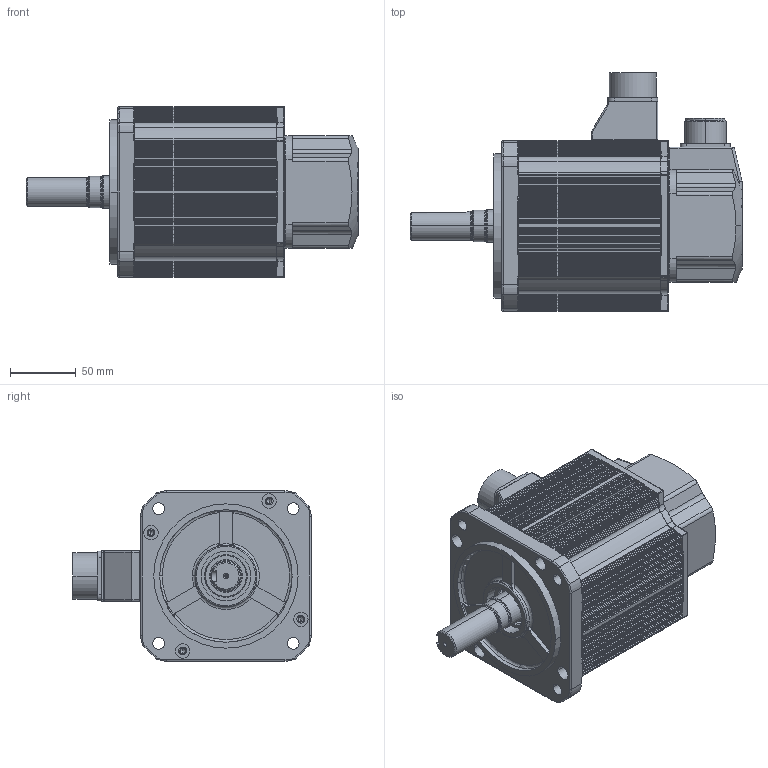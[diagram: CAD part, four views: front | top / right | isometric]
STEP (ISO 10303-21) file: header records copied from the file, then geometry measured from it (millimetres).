
FILE_DESCRIPTION (( 'STEP AP203' ), '1' );
FILE_NAME ('KANH-05B(BR).STEP', '2026-09-12T02:53:26', ( '' ), ( '' ), 'SwSTEP 2.0', 'SolidWorks 2023', '' );
FILE_SCHEMA (( 'CONFIG_CONTROL_DESIGN' ));
Length unit declared in the file: millimetre
Products named in the file (11): MS3102A 20-29P; 10050511 RUBBER SEAL_MS20; 1005052200 ENCODER COVER; KANH-05B(BR); □130 FLANGE; 10050523 GASKET_돌출형; Ø22-KEY8X41; 10050579 CONNECTOR BOX_MS20; MS3102A 20_표준; □130 BRACKET_BR; □130-111.0mm(0.5kW,BR,MS20)
Assembly tree (10 placements, depth 2):
  KANH-05B(BR)
    Ø22-KEY8X41
    □130 FLANGE
    □130-111.0mm(0.5kW,BR,MS20)
    □130 BRACKET_BR
    10050511 RUBBER SEAL_MS20
    10050579 CONNECTOR BOX_MS20
    MS3102A 20_표준
    MS3102A 20-29P
    1005052200 ENCODER COVER
    10050523 GASKET_돌출형
Bounding box: 253.2 x 181.75 x 130 mm (x, y, z)
Volume: 639668.7 mm3; surface area: 337082.1 mm2
Topology: 10 solids, 10 shells, 2491 faces, 6891 edges, 4455 vertices
Faces by surface type: plane 1171, cylinder 986, torus 185, bspline 83, cone 56, sphere 10
Entity records: 84366 total; most frequent: CARTESIAN_POINT 18672, DIRECTION 13678, ORIENTED_EDGE 13654, EDGE_CURVE 6827, AXIS2_PLACEMENT_3D 4817, VERTEX_POINT 4455, VECTOR 4044, LINE 4044
